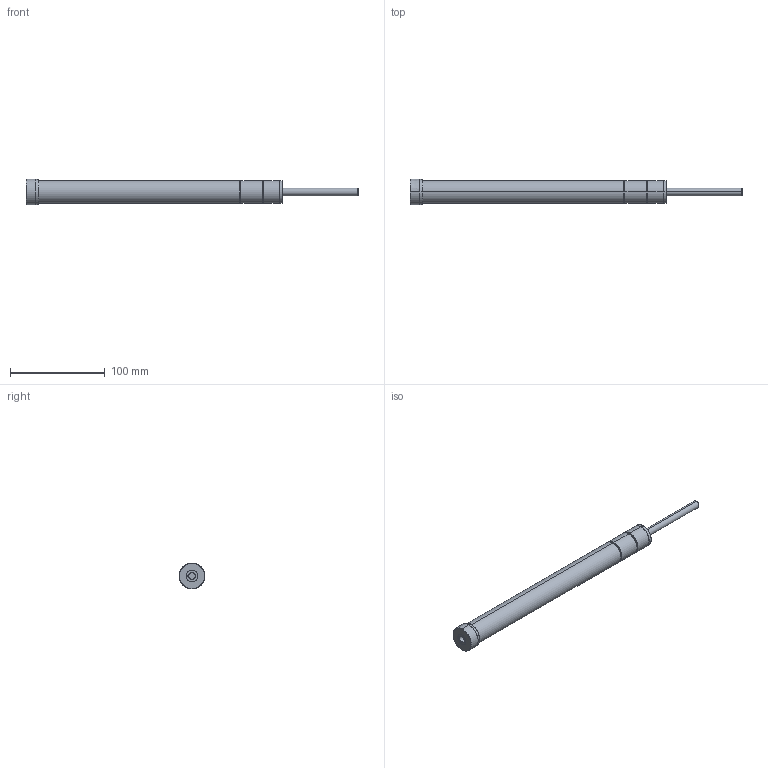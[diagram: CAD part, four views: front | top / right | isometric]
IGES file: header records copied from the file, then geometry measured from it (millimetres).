
Start section: SolidWorks IGES file using analytic representation for surfaces
Global section: file name: D:\IGS跡宒\HR80.IGS,1; native system: 5HSolidWorks 2013; preprocessor: SolidWorks 2013; author: Administrator; date: 160406.154021; units: inch
Bounding box: 350.7 x 27.3 x 27.3 mm (x, y, z)
Surface area: 33904.2 mm2 (no closed solid volume)
Topology: 0 solids, 0 shells, 50 faces, 1042 edges, 1040 vertices
Faces by surface type: revolution 38, bspline 12
